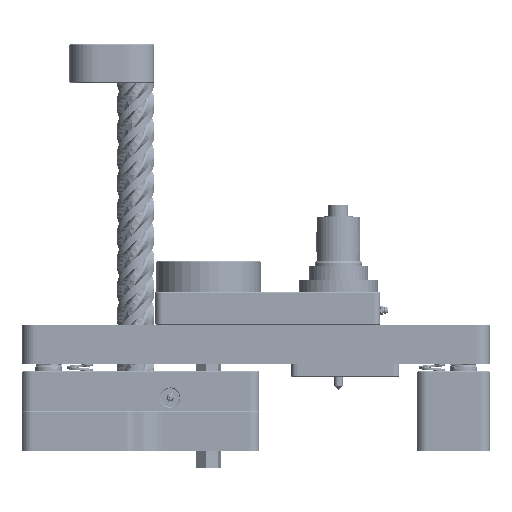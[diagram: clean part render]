
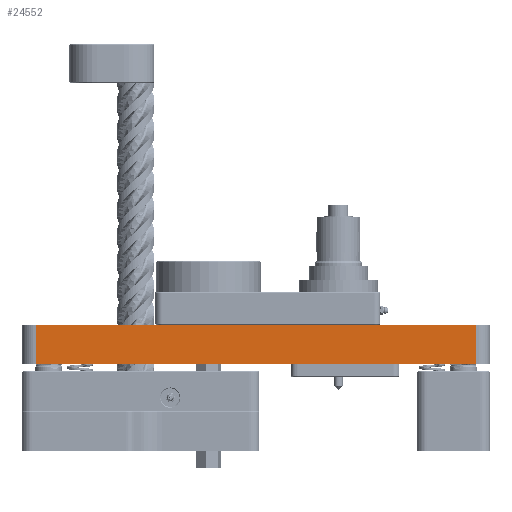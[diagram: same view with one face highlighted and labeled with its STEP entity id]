
A CAD part, front view. The second image highlights one B-rep face of the part: STEP entity #24552.
In plain terms, the highlighted planar face has unit normal (0, -1, 0) as drawn and (0, 1, 0) by its records, which use the part's own axes.
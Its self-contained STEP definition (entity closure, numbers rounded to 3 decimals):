
#1274=LINE('',#78132,#2164);
#1275=LINE('',#78135,#2165);
#1276=LINE('',#78137,#2166);
#1277=LINE('',#78139,#2167);
#2164=VECTOR('',#30281,1000.);
#2165=VECTOR('',#30282,1000.);
#2166=VECTOR('',#30283,1000.);
#2167=VECTOR('',#30284,1000.);
#2781=PLANE('',#26346);
#6964=ORIENTED_EDGE('',*,*,#9986,.T.);
#6965=ORIENTED_EDGE('',*,*,#9987,.T.);
#6966=ORIENTED_EDGE('',*,*,#9988,.T.);
#6967=ORIENTED_EDGE('',*,*,#9989,.T.);
#9986=EDGE_CURVE('',#11928,#11929,#1274,.F.);
#9987=EDGE_CURVE('',#11929,#11930,#1275,.F.);
#9988=EDGE_CURVE('',#11930,#11931,#1276,.T.);
#9989=EDGE_CURVE('',#11931,#11928,#1277,.T.);
#11928=VERTEX_POINT('',#78133);
#11929=VERTEX_POINT('',#78134);
#11930=VERTEX_POINT('',#78136);
#11931=VERTEX_POINT('',#78138);
#14412=EDGE_LOOP('',(#6964,#6965,#6966,#6967));
#16241=FACE_BOUND('',#14412,.T.);
#24552=ADVANCED_FACE('',(#16241),#2781,.F.);
#26346=AXIS2_PLACEMENT_3D('',#78131,#30279,#30280);
#30279=DIRECTION('',(0.,-1.,0.));
#30280=DIRECTION('',(1.,0.,0.));
#30281=DIRECTION('',(0.,0.,1.));
#30282=DIRECTION('',(1.,0.,0.));
#30283=DIRECTION('',(0.,0.,1.));
#30284=DIRECTION('',(1.,0.,0.));
#78131=CARTESIAN_POINT('',(231.775,50.8,24.638));
#78132=CARTESIAN_POINT('',(306.794,50.8,24.638));
#78133=CARTESIAN_POINT('',(306.794,50.8,36.544));
#78134=CARTESIAN_POINT('',(306.794,50.8,0.794));
#78135=CARTESIAN_POINT('',(231.775,50.8,0.794));
#78136=CARTESIAN_POINT('',(-105.799,50.8,0.794));
#78137=CARTESIAN_POINT('',(-105.799,50.8,24.638));
#78138=CARTESIAN_POINT('',(-105.799,50.8,36.544));
#78139=CARTESIAN_POINT('',(88.9,50.8,36.544));
